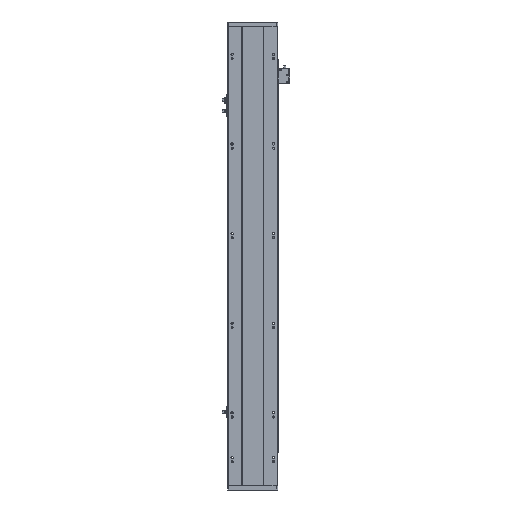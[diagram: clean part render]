
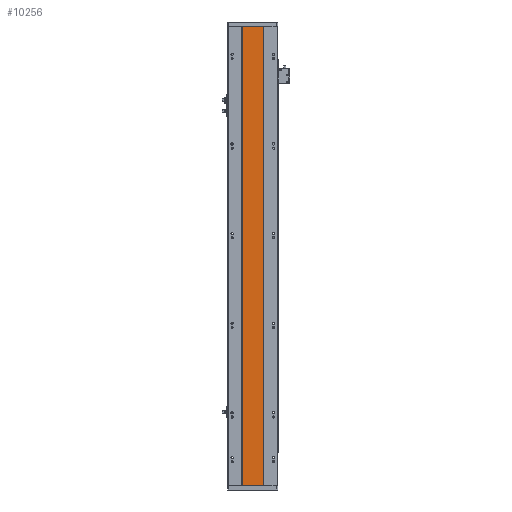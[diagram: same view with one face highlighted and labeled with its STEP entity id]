
A CAD part, front view. The second image highlights one B-rep face of the part: STEP entity #10256.
In plain terms, the highlighted planar face has unit normal (0, -1, 0).
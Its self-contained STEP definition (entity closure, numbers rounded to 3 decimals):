
#863 = VERTEX_POINT ( 'NONE', #1048 ) ;
#962 = CARTESIAN_POINT ( 'NONE',  ( 133.07, 115.96, 1108. ) ) ;
#1048 = CARTESIAN_POINT ( 'NONE',  ( 133.07, 115.96, 1108. ) ) ;
#1370 = EDGE_LOOP ( 'NONE', ( #15076, #23149, #19890, #7557 ) ) ;
#1801 = FACE_OUTER_BOUND ( 'NONE', #1370, .T. ) ;
#2804 = VERTEX_POINT ( 'NONE', #18306 ) ;
#4367 = CARTESIAN_POINT ( 'NONE',  ( 0., 115.96, 1108. ) ) ;
#4450 = CARTESIAN_POINT ( 'NONE',  ( 133.07, 115.96, 0. ) ) ;
#4635 = DIRECTION ( 'NONE',  ( -1., 0., 0. ) ) ;
#5033 = EDGE_CURVE ( 'NONE', #863, #7651, #16749, .T. ) ;
#5445 = DIRECTION ( 'NONE',  ( 1., 0., 0. ) ) ;
#7188 = DIRECTION ( 'NONE',  ( 0., 0., -1. ) ) ;
#7557 = ORIENTED_EDGE ( 'NONE', *, *, #26029, .T. ) ;
#7651 = VERTEX_POINT ( 'NONE', #11593 ) ;
#8713 = DIRECTION ( 'NONE',  ( 0., 1., 0. ) ) ;
#9096 = LINE ( 'NONE', #962, #15254 ) ;
#10256 = ADVANCED_FACE ( 'NONE', ( #1801 ), #18892, .F. ) ;
#11062 = CARTESIAN_POINT ( 'NONE',  ( 0., 115.96, 0. ) ) ;
#11274 = VECTOR ( 'NONE', #5445, 1000. ) ;
#11372 = DIRECTION ( 'NONE',  ( 0., 0., -1. ) ) ;
#11593 = CARTESIAN_POINT ( 'NONE',  ( 183.063, 115.96, 1108. ) ) ;
#12079 = LINE ( 'NONE', #15261, #21729 ) ;
#15076 = ORIENTED_EDGE ( 'NONE', *, *, #16534, .T. ) ;
#15148 = DIRECTION ( 'NONE',  ( 1., 0., 0. ) ) ;
#15254 = VECTOR ( 'NONE', #7188, 1000. ) ;
#15261 = CARTESIAN_POINT ( 'NONE',  ( 183.063, 115.96, 1108. ) ) ;
#16466 = VECTOR ( 'NONE', #15148, 1000. ) ;
#16534 = EDGE_CURVE ( 'NONE', #23718, #2804, #21950, .T. ) ;
#16749 = LINE ( 'NONE', #20060, #11274 ) ;
#18306 = CARTESIAN_POINT ( 'NONE',  ( 183.063, 115.96, 0. ) ) ;
#18892 = PLANE ( 'NONE',  #21658 ) ;
#19890 = ORIENTED_EDGE ( 'NONE', *, *, #5033, .F. ) ;
#20060 = CARTESIAN_POINT ( 'NONE',  ( 0., 115.96, 1108. ) ) ;
#20892 = EDGE_CURVE ( 'NONE', #7651, #2804, #12079, .T. ) ;
#21658 = AXIS2_PLACEMENT_3D ( 'NONE', #4367, #8713, #4635 ) ;
#21729 = VECTOR ( 'NONE', #11372, 1000. ) ;
#21950 = LINE ( 'NONE', #11062, #16466 ) ;
#23149 = ORIENTED_EDGE ( 'NONE', *, *, #20892, .F. ) ;
#23718 = VERTEX_POINT ( 'NONE', #4450 ) ;
#26029 = EDGE_CURVE ( 'NONE', #863, #23718, #9096, .T. ) ;
